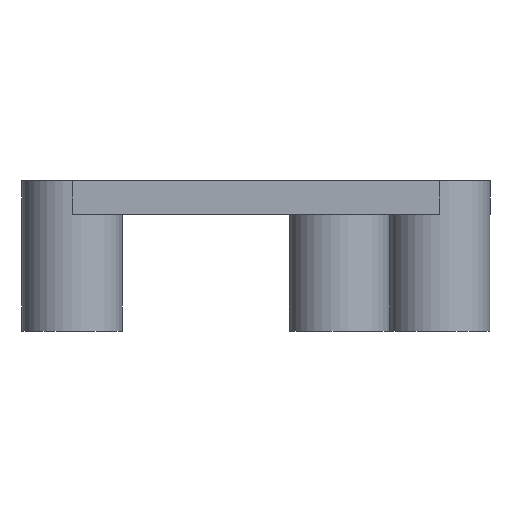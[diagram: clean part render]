
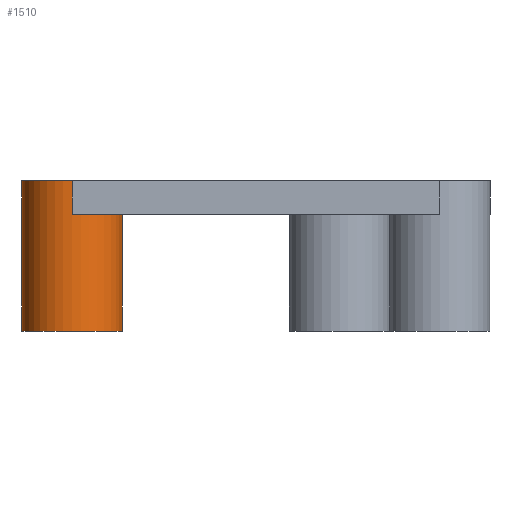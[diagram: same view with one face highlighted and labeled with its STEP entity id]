
A CAD part, left-side view. The second image highlights one B-rep face of the part: STEP entity #1510.
In plain terms, the highlighted cylindrical face has radius 3.81 mm (diameter 7.62 mm), a full revolution.
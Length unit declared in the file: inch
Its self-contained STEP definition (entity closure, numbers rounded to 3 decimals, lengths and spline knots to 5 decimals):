
#19 = CARTESIAN_POINT ( 'NONE',  ( -0.95, 0.8, 0. ) ) ;
#32 = LINE ( 'NONE', #936, #299 ) ;
#91 = CARTESIAN_POINT ( 'NONE',  ( -1.1, 0.8, 0.45 ) ) ;
#106 = VERTEX_POINT ( 'NONE', #499 ) ;
#177 = DIRECTION ( 'NONE',  ( 0., 0., -1. ) ) ;
#197 = CARTESIAN_POINT ( 'NONE',  ( -1.25, 0.8, 0.35 ) ) ;
#212 = CIRCLE ( 'NONE', #1117, 0.15 ) ;
#213 = EDGE_CURVE ( 'NONE', #355, #106, #1425, .T. ) ;
#226 = AXIS2_PLACEMENT_3D ( 'NONE', #264, #641, #828 ) ;
#229 = FACE_OUTER_BOUND ( 'NONE', #1090, .T. ) ;
#261 = ORIENTED_EDGE ( 'NONE', *, *, #1067, .T. ) ;
#262 = DIRECTION ( 'NONE',  ( 1., 0., 0. ) ) ;
#264 = CARTESIAN_POINT ( 'NONE',  ( -1.1, 0.8, 0.35 ) ) ;
#290 = VERTEX_POINT ( 'NONE', #660 ) ;
#299 = VECTOR ( 'NONE', #332, 39.37008 ) ;
#304 = EDGE_LOOP ( 'NONE', ( #1434 ) ) ;
#332 = DIRECTION ( 'NONE',  ( 0., 0., -1. ) ) ;
#355 = VERTEX_POINT ( 'NONE', #197 ) ;
#499 = CARTESIAN_POINT ( 'NONE',  ( -1.1, 0.95, 0.35 ) ) ;
#519 = CIRCLE ( 'NONE', #1088, 0.15 ) ;
#536 = DIRECTION ( 'NONE',  ( 1., 0., 0. ) ) ;
#560 = DIRECTION ( 'NONE',  ( 0., 0., 1. ) ) ;
#585 = ORIENTED_EDGE ( 'NONE', *, *, #1379, .F. ) ;
#594 = VECTOR ( 'NONE', #177, 39.37008 ) ;
#601 = CARTESIAN_POINT ( 'NONE',  ( -1.1, 0.8, 0.35 ) ) ;
#622 = DIRECTION ( 'NONE',  ( 0., 0., 1. ) ) ;
#635 = LINE ( 'NONE', #1135, #594 ) ;
#641 = DIRECTION ( 'NONE',  ( 0., 0., 1. ) ) ;
#660 = CARTESIAN_POINT ( 'NONE',  ( -1.25, 0.8, 0.45 ) ) ;
#777 = VERTEX_POINT ( 'NONE', #19 ) ;
#828 = DIRECTION ( 'NONE',  ( 1., 0., 0. ) ) ;
#857 = CYLINDRICAL_SURFACE ( 'NONE', #1249, 0.15 ) ;
#866 = CARTESIAN_POINT ( 'NONE',  ( -1.1, 0.8, 0. ) ) ;
#893 = FACE_OUTER_BOUND ( 'NONE', #304, .T. ) ;
#936 = CARTESIAN_POINT ( 'NONE',  ( -1.25, 0.8, 0.45 ) ) ;
#976 = DIRECTION ( 'NONE',  ( 0., 0., -1. ) ) ;
#993 = EDGE_CURVE ( 'NONE', #777, #777, #212, .T. ) ;
#1005 = ORIENTED_EDGE ( 'NONE', *, *, #1245, .F. ) ;
#1067 = EDGE_CURVE ( 'NONE', #1103, #106, #635, .T. ) ;
#1088 = AXIS2_PLACEMENT_3D ( 'NONE', #91, #560, #536 ) ;
#1090 = EDGE_LOOP ( 'NONE', ( #1290, #585, #1005, #261 ) ) ;
#1103 = VERTEX_POINT ( 'NONE', #1256 ) ;
#1117 = AXIS2_PLACEMENT_3D ( 'NONE', #866, #622, #262 ) ;
#1135 = CARTESIAN_POINT ( 'NONE',  ( -1.1, 0.95, 0.45 ) ) ;
#1245 = EDGE_CURVE ( 'NONE', #1103, #290, #519, .T. ) ;
#1249 = AXIS2_PLACEMENT_3D ( 'NONE', #601, #976, #1424 ) ;
#1256 = CARTESIAN_POINT ( 'NONE',  ( -1.1, 0.95, 0.45 ) ) ;
#1290 = ORIENTED_EDGE ( 'NONE', *, *, #213, .F. ) ;
#1379 = EDGE_CURVE ( 'NONE', #290, #355, #32, .T. ) ;
#1424 = DIRECTION ( 'NONE',  ( -1., 0., 0. ) ) ;
#1425 = CIRCLE ( 'NONE', #226, 0.15 ) ;
#1434 = ORIENTED_EDGE ( 'NONE', *, *, #993, .T. ) ;
#1510 = ADVANCED_FACE ( 'NONE', ( #229, #893 ), #857, .T. ) ;
